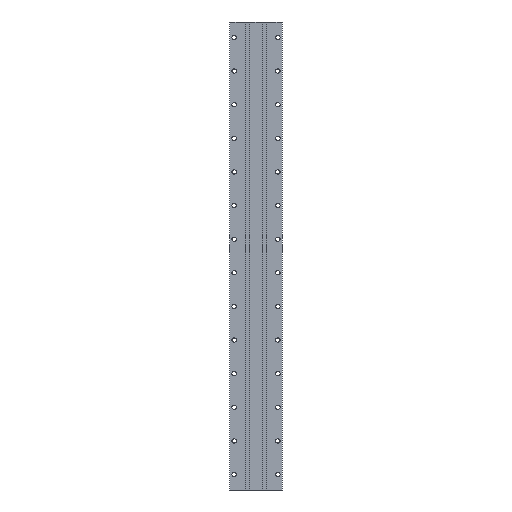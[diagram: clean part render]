
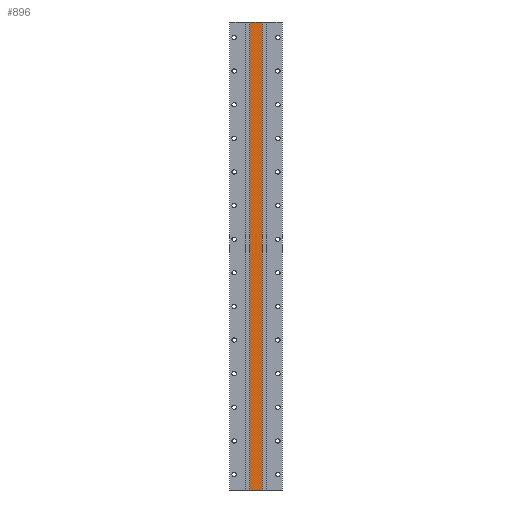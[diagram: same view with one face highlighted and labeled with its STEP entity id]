
A CAD part, front view. The second image highlights one B-rep face of the part: STEP entity #896.
In plain terms, the highlighted planar face has unit normal (0, -1, 0).
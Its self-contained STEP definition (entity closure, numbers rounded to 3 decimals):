
#895 = ORIENTED_EDGE ( 'NONE', *, *, #2196, .T. ) ;
#896 = ADVANCED_FACE ( 'NONE', ( #5034 ), #5032, .T. ) ;
#899 = VERTEX_POINT ( 'NONE', #5087 ) ;
#900 = EDGE_CURVE ( 'NONE', #903, #899, #5086, .T. ) ;
#901 = EDGE_CURVE ( 'NONE', #899, #909, #5082, .T. ) ;
#902 = ORIENTED_EDGE ( 'NONE', *, *, #900, .F. ) ;
#903 = VERTEX_POINT ( 'NONE', #5078 ) ;
#904 = ORIENTED_EDGE ( 'NONE', *, *, #901, .F. ) ;
#905 = EDGE_LOOP ( 'NONE', ( #904, #902, #895, #2123 ) ) ;
#909 = VERTEX_POINT ( 'NONE', #5067 ) ;
#912 = EDGE_CURVE ( 'NONE', #913, #909, #5066, .T. ) ;
#913 = VERTEX_POINT ( 'NONE', #5062 ) ;
#2123 = ORIENTED_EDGE ( 'NONE', *, *, #912, .T. ) ;
#2196 = EDGE_CURVE ( 'NONE', #903, #913, #6943, .T. ) ;
#5029 = DIRECTION ( 'NONE',  ( 0., -1., 0. ) ) ;
#5030 = CARTESIAN_POINT ( 'NONE',  ( -9.25, 0., -348. ) ) ;
#5031 = AXIS2_PLACEMENT_3D ( 'NONE', #5030, #5029, #5091 ) ;
#5032 = PLANE ( 'NONE',  #5031 ) ;
#5034 = FACE_OUTER_BOUND ( 'NONE', #905, .T. ) ;
#5062 = CARTESIAN_POINT ( 'NONE',  ( 9.25, 0., -348. ) ) ;
#5063 = DIRECTION ( 'NONE',  ( 0., 0., 1. ) ) ;
#5064 = VECTOR ( 'NONE', #5063, 1000. ) ;
#5065 = CARTESIAN_POINT ( 'NONE',  ( 9.25, 0., -348. ) ) ;
#5066 = LINE ( 'NONE', #5065, #5064 ) ;
#5067 = CARTESIAN_POINT ( 'NONE',  ( 9.25, 0., 348. ) ) ;
#5078 = CARTESIAN_POINT ( 'NONE',  ( -9.25, 0., -348. ) ) ;
#5079 = DIRECTION ( 'NONE',  ( 1., 0., 0. ) ) ;
#5080 = VECTOR ( 'NONE', #5079, 1000. ) ;
#5081 = CARTESIAN_POINT ( 'NONE',  ( -9.25, 0., 348. ) ) ;
#5082 = LINE ( 'NONE', #5081, #5080 ) ;
#5083 = DIRECTION ( 'NONE',  ( 0., 0., 1. ) ) ;
#5084 = VECTOR ( 'NONE', #5083, 1000. ) ;
#5085 = CARTESIAN_POINT ( 'NONE',  ( -9.25, 0., -348. ) ) ;
#5086 = LINE ( 'NONE', #5085, #5084 ) ;
#5087 = CARTESIAN_POINT ( 'NONE',  ( -9.25, 0., 348. ) ) ;
#5091 = DIRECTION ( 'NONE',  ( 0., 0., -1. ) ) ;
#6940 = DIRECTION ( 'NONE',  ( 1., 0., 0. ) ) ;
#6941 = VECTOR ( 'NONE', #6940, 1000. ) ;
#6942 = CARTESIAN_POINT ( 'NONE',  ( -9.25, 0., -348. ) ) ;
#6943 = LINE ( 'NONE', #6942, #6941 ) ;
